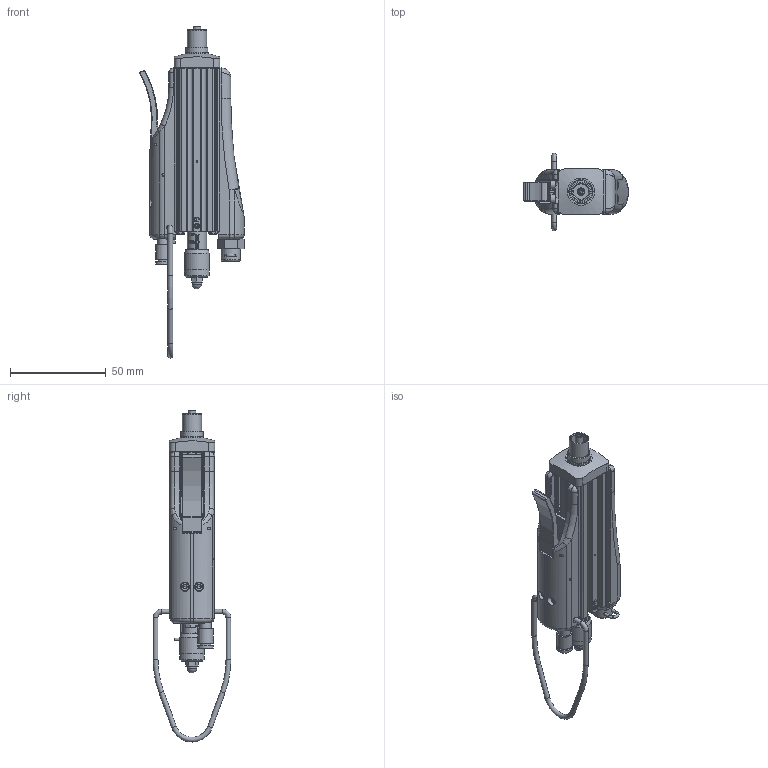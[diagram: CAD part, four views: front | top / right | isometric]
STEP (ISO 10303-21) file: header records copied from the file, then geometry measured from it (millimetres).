
FILE_DESCRIPTION (( 'STEP AP214' ), '1' );
FILE_NAME ('DAV-100-MAN-SY.STEP', '2024-10-11T10:15:37', ( '' ), ( '' ), 'SwSTEP 2.0', 'SolidWorks 2024', '' );
FILE_SCHEMA (( 'AUTOMOTIVE_DESIGN' ));
Length unit declared in the file: millimetre
Products named in the file (1): DAV-100-MAN-SY
Bounding box: 54.48 x 40.5 x 173.24 mm (x, y, z)
Volume: 67748.6 mm3; surface area: 46712.9 mm2
Topology: 3 solids, 4 shells, 2367 faces, 6306 edges, 4093 vertices
Faces by surface type: plane 1148, bspline 497, cylinder 421, cone 184, torus 106, sphere 11
Full cylindrical faces by diameter (mm): 0.8 x1, 1.2 x22, 1.4 x11, 1.5 x2, 1.55 x1, 1.96 x4, 2 x9, 2.05 x21, 2.1 x1, 2.25 x4, 2.4 x1, 2.5 x22, 2.7 x9, 3 x14, 3.4 x6, 3.5 x3, 3.9 x2, 4 x8, 4.5 x9, 4.7 x4, 5 x5, 5.1 x2, 5.3 x1, 5.5 x5, 6 x3, 6.03 x1, 6.2 x1, 7 x2, 7.85 x1, 7.9 x1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
Entity records: 101462 total; most frequent: CARTESIAN_POINT 48941, ORIENTED_EDGE 11350, DIRECTION 9013, EDGE_CURVE 5675, VERTEX_POINT 3874, VECTOR 3239, LINE 3239, EDGE_LOOP 3025
